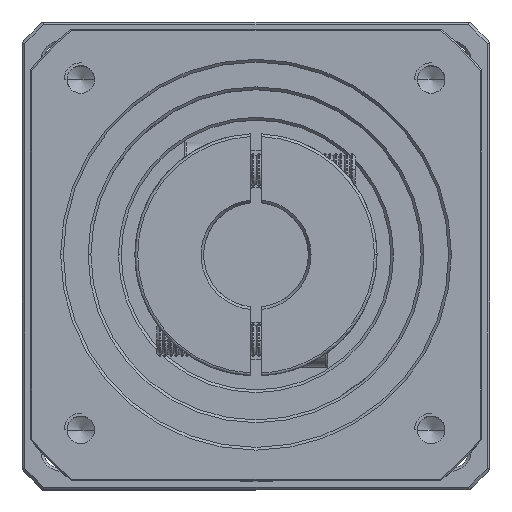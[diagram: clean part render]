
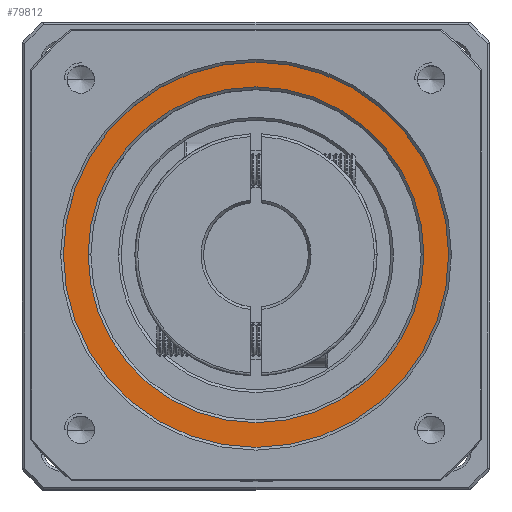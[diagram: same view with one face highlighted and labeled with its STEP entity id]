
A CAD part, top view. The second image highlights one B-rep face of the part: STEP entity #79812.
In plain terms, the highlighted planar face has unit normal (0, 0, 1).
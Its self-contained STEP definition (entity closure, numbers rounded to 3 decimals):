
#31 = VERTEX_POINT ( 'NONE', #65813 ) ;
#712 = CIRCLE ( 'NONE', #28253, 35. ) ;
#2993 = EDGE_CURVE ( 'NONE', #45418, #95897, #61333, .T. ) ;
#3631 = FACE_BOUND ( 'NONE', #15928, .T. ) ;
#4041 = CARTESIAN_POINT ( 'NONE',  ( -113.332, 33.92, 38.171 ) ) ;
#5281 = CARTESIAN_POINT ( 'NONE',  ( -47.832, 33.92, 38.171 ) ) ;
#9257 = CARTESIAN_POINT ( 'NONE',  ( -82.832, 33.92, 38.171 ) ) ;
#12156 = ORIENTED_EDGE ( 'NONE', *, *, #52565, .T. ) ;
#15259 = CARTESIAN_POINT ( 'NONE',  ( -82.832, 33.92, 38.171 ) ) ;
#15928 = EDGE_LOOP ( 'NONE', ( #95820, #84733 ) ) ;
#17753 = DIRECTION ( 'NONE',  ( 1., 0., 0. ) ) ;
#21434 = DIRECTION ( 'NONE',  ( 0., 0., 1. ) ) ;
#23774 = DIRECTION ( 'NONE',  ( 1., 0., 0. ) ) ;
#25378 = ORIENTED_EDGE ( 'NONE', *, *, #2993, .T. ) ;
#26437 = CARTESIAN_POINT ( 'NONE',  ( -82.832, 33.92, 38.171 ) ) ;
#27636 = DIRECTION ( 'NONE',  ( 0., 0., -1. ) ) ;
#28253 = AXIS2_PLACEMENT_3D ( 'NONE', #9257, #68339, #17753 ) ;
#30010 = EDGE_LOOP ( 'NONE', ( #12156, #25378 ) ) ;
#34963 = DIRECTION ( 'NONE',  ( 1., 0., 0. ) ) ;
#45391 = CIRCLE ( 'NONE', #90932, 30.5 ) ;
#45418 = VERTEX_POINT ( 'NONE', #48360 ) ;
#48360 = CARTESIAN_POINT ( 'NONE',  ( -117.832, 33.92, 38.171 ) ) ;
#52565 = EDGE_CURVE ( 'NONE', #95897, #45418, #712, .T. ) ;
#61333 = CIRCLE ( 'NONE', #69203, 35. ) ;
#65707 = FACE_OUTER_BOUND ( 'NONE', #30010, .T. ) ;
#65813 = CARTESIAN_POINT ( 'NONE',  ( -52.332, 33.92, 38.171 ) ) ;
#68339 = DIRECTION ( 'NONE',  ( 0., 0., 1. ) ) ;
#69203 = AXIS2_PLACEMENT_3D ( 'NONE', #26437, #85555, #34963 ) ;
#72029 = CARTESIAN_POINT ( 'NONE',  ( -82.832, 33.92, 38.171 ) ) ;
#74326 = DIRECTION ( 'NONE',  ( 0., 0., -1. ) ) ;
#78167 = CARTESIAN_POINT ( 'NONE',  ( -82.832, 33.92, 38.171 ) ) ;
#79508 = EDGE_CURVE ( 'NONE', #31, #83822, #96301, .T. ) ;
#79812 = ADVANCED_FACE ( 'NONE', ( #65707, #3631 ), #80159, .T. ) ;
#80159 = PLANE ( 'NONE',  #102581 ) ;
#80555 = DIRECTION ( 'NONE',  ( 1., 0., 0. ) ) ;
#83822 = VERTEX_POINT ( 'NONE', #4041 ) ;
#84111 = AXIS2_PLACEMENT_3D ( 'NONE', #78167, #27636, #86749 ) ;
#84733 = ORIENTED_EDGE ( 'NONE', *, *, #88521, .T. ) ;
#85555 = DIRECTION ( 'NONE',  ( 0., 0., 1. ) ) ;
#86749 = DIRECTION ( 'NONE',  ( 1., 0., 0. ) ) ;
#88521 = EDGE_CURVE ( 'NONE', #83822, #31, #45391, .T. ) ;
#90932 = AXIS2_PLACEMENT_3D ( 'NONE', #15259, #74326, #23774 ) ;
#95820 = ORIENTED_EDGE ( 'NONE', *, *, #79508, .T. ) ;
#95897 = VERTEX_POINT ( 'NONE', #5281 ) ;
#96301 = CIRCLE ( 'NONE', #84111, 30.5 ) ;
#102581 = AXIS2_PLACEMENT_3D ( 'NONE', #72029, #21434, #80555 ) ;
